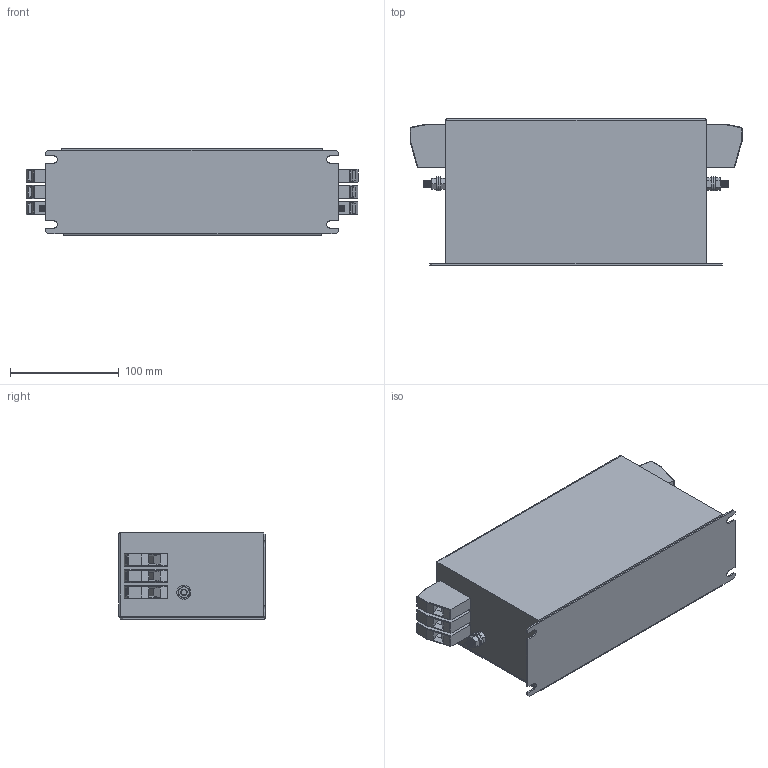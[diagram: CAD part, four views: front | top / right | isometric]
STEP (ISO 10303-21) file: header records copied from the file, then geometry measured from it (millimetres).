
FILE_DESCRIPTION (( 'STEP AP203' ), '1' );
FILE_NAME ('Assem14.STEP', '2008-12-08T12:36:18', ( 'Owner' ), ( 'EPA GmbH' ), 'SwSTEP 2.0', 'SolidWorks 2007', '' );
FILE_SCHEMA (( 'CONFIG_CONTROL_DESIGN' ));
Length unit declared in the file: millimetre
Products named in the file (8): NF-K-75; Hex Nut Style 1_AM_B18.2.4.1M - Hex nut, Style 1,  M6 x 1 --D-N; Flat Washer Narrow_AM_B18.22M - Plain washer, 6 mm, narrow; Assem14; NK-K-75; HDFK-16; M6x16 Earth post; Hex Screw_AM_B18.6.7M - M6 x 1.0 x 16 Plain HHMS --16S
Assembly tree (14 placements, depth 4):
  Assem14
    NF-K-75
      M6x16 Earth post  x2
        Flat Washer Narrow_AM_B18.22M - Plain washer, 6 mm, narrow
        Hex Nut Style 1_AM_B18.2.4.1M - Hex nut, Style 1,  M6 x 1 --D-N
        Hex Screw_AM_B18.6.7M - M6 x 1.0 x 16 Plain HHMS --16S
      HDFK-16  x6
      NK-K-75
Bounding box: 306.01 x 135 x 80 mm (x, y, z)
Volume: 2627589.4 mm3; surface area: 195446.2 mm2
Topology: 15 solids, 15 shells, 735 faces, 1729 edges, 1054 vertices
Faces by surface type: plane 408, cone 192, cylinder 133, sphere 2
Entity records: 9299 total; most frequent: CARTESIAN_POINT 1597, DIRECTION 1467, ORIENTED_EDGE 1358, EDGE_CURVE 679, AXIS2_PLACEMENT_3D 538, VERTEX_POINT 420, VECTOR 391, LINE 391
